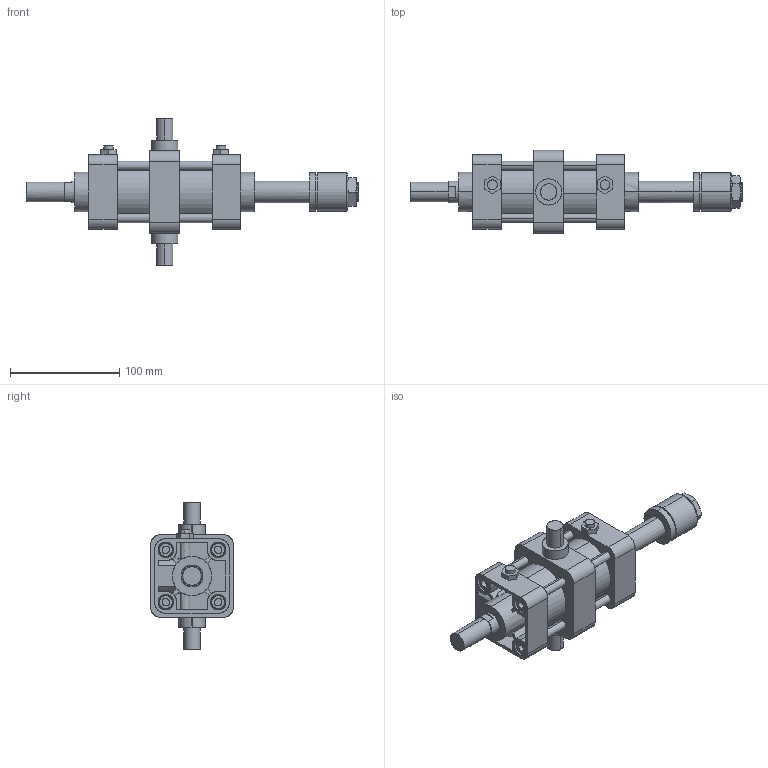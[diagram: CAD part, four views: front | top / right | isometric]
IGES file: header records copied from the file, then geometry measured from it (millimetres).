
Start section: SolidWorks IGES file using analytic representation for surfaces
Global section: file name: C:\Users\Toshiba\Desktop\KGA7-50#-50-T.IGS; native system: SolidWorks 2014; preprocessor: SolidWorks 2014; author: Toshiba; date: 160414.155044; units: millimetre
Bounding box: 304 x 76 x 135 mm (x, y, z)
Surface area: 140395.9 mm2 (no closed solid volume)
Topology: 0 solids, 0 shells, 411 faces, 6901 edges, 6897 vertices
Faces by surface type: bspline 219, revolution 192
